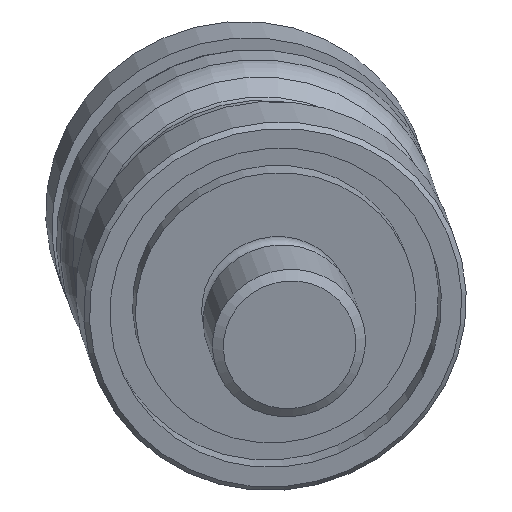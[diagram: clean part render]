
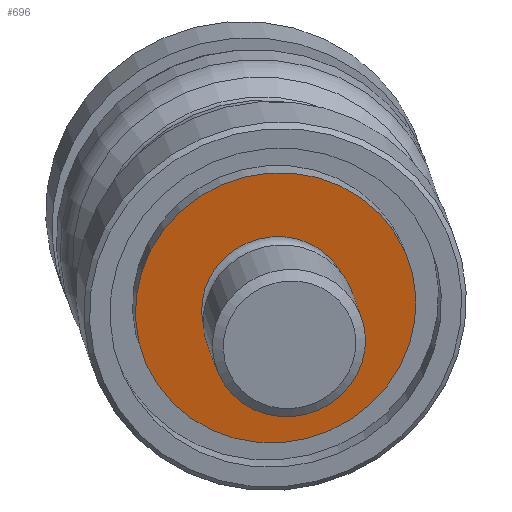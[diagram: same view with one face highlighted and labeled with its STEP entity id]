
A CAD part, left-side view. The second image highlights one B-rep face of the part: STEP entity #696.
In plain terms, the highlighted planar face has unit normal (-0.951, -0.109, -0.288).
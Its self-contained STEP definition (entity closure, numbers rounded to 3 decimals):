
#73=CARTESIAN_POINT('',(-67.255,8.774,1.054));
#74=VERTEX_POINT('',#73);
#75=CARTESIAN_POINT('',(-64.823,17.498,-10.27));
#76=DIRECTION('',(0.951,0.109,0.288));
#77=DIRECTION('',(-0.168,-0.602,0.781));
#78=AXIS2_PLACEMENT_3D('',#75,#76,#77);
#79=CIRCLE('',#78,14.5);
#80=EDGE_CURVE('',#74,#74,#79,.T.);
#360=CARTESIAN_POINT('',(-60.211,34.044,-31.745));
#361=VERTEX_POINT('',#360);
#362=CARTESIAN_POINT('',(-64.823,17.498,-10.27));
#363=DIRECTION('',(0.951,0.109,0.288));
#364=DIRECTION('',(0.168,0.602,-0.781));
#365=AXIS2_PLACEMENT_3D('',#362,#363,#364);
#366=CIRCLE('',#365,27.5);
#367=EDGE_CURVE('',#361,#361,#366,.T.);
#685=CARTESIAN_POINT('',(-51.92,11.764,-50.652));
#686=DIRECTION('',(-0.951,-0.109,-0.288));
#687=DIRECTION('',(-0.168,-0.602,0.781));
#688=AXIS2_PLACEMENT_3D('',#685,#686,#687);
#689=PLANE('',#688);
#690=ORIENTED_EDGE('',*,*,#367,.F.);
#691=EDGE_LOOP('',(#690));
#692=FACE_OUTER_BOUND('',#691,.T.);
#693=ORIENTED_EDGE('',*,*,#80,.T.);
#694=EDGE_LOOP('',(#693));
#695=FACE_BOUND('',#694,.T.);
#696=ADVANCED_FACE('',(#692,#695),#689,.T.);
